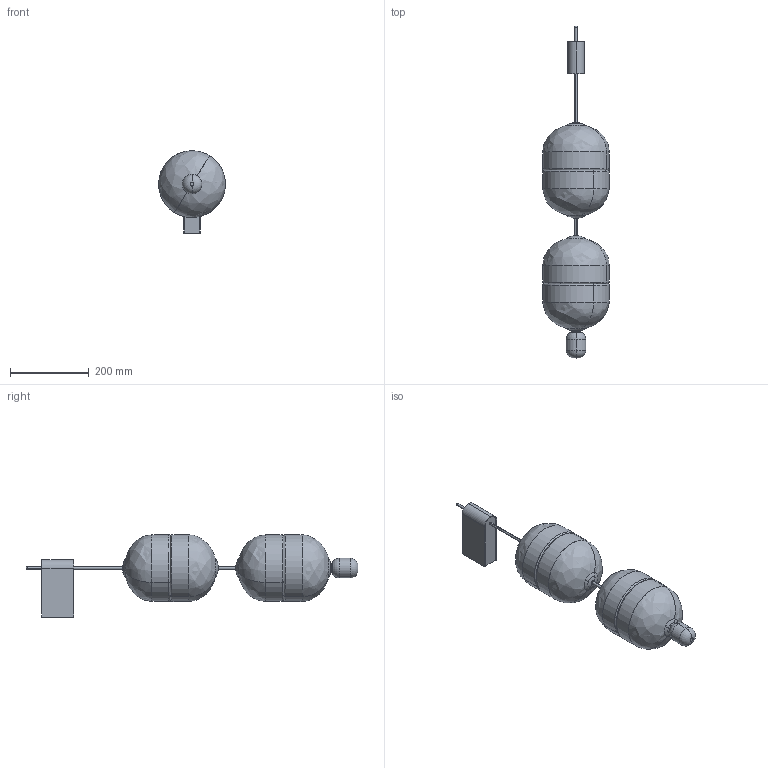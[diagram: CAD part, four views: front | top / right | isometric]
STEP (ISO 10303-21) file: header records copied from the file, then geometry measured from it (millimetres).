
FILE_DESCRIPTION (( 'STEP AP203' ), '1' );
FILE_NAME ('Light Weight - Indre - Indre Wall Mount B.STEP', '2023-06-13T07:17:49', ( '' ), ( '' ), 'SwSTEP 2.0', 'SolidWorks 2017', '' );
FILE_SCHEMA (( 'CONFIG_CONTROL_DESIGN' ));
Length unit declared in the file: millimetre
Products named in the file (1): Light Weight - Indre - Indre Wall Mount B
Bounding box: 169.92 x 845.13 x 209.96 mm (x, y, z)
Volume: 1475925 mm3; surface area: 882072.7 mm2
Topology: 15 solids, 15 shells, 281 faces, 649 edges, 391 vertices
Faces by surface type: cylinder 94, torus 70, bspline 40, plane 39, sphere 20, cone 18
Entity records: 10380 total; most frequent: CARTESIAN_POINT 3850, DIRECTION 1511, ORIENTED_EDGE 1294, AXIS2_PLACEMENT_3D 682, EDGE_CURVE 647, CIRCLE 440, VERTEX_POINT 391, EDGE_LOOP 298
